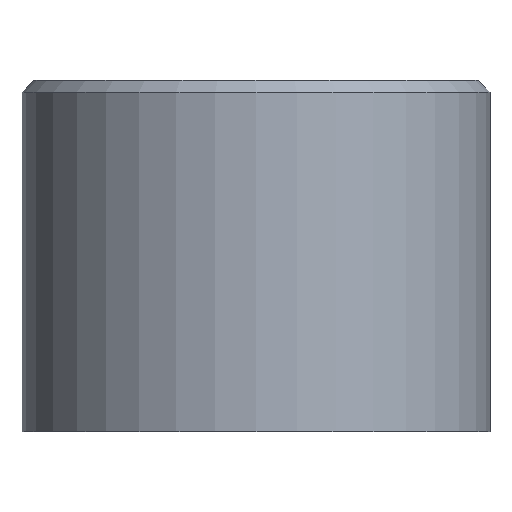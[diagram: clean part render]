
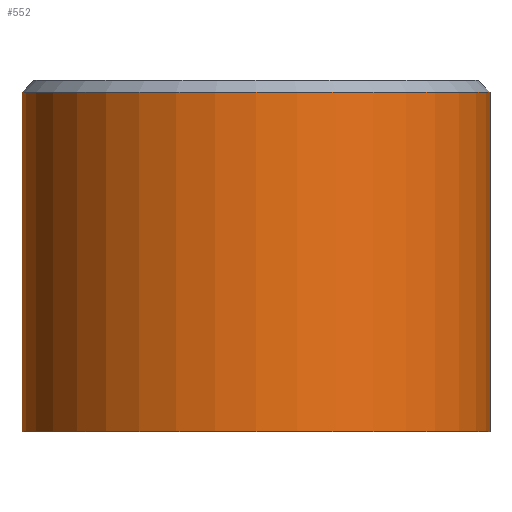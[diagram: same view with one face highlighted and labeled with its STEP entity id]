
A CAD part, front view. The second image highlights one B-rep face of the part: STEP entity #552.
In plain terms, the highlighted cylindrical face has radius 20 mm (diameter 40 mm), a full revolution.
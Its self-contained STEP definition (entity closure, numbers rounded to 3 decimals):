
#26=CIRCLE('',#596,20.);
#28=CIRCLE('',#602,20.);
#32=CYLINDRICAL_SURFACE('',#603,20.);
#61=FACE_OUTER_BOUND('',#98,.T.);
#98=EDGE_LOOP('',(#479,#480,#481,#482));
#166=LINE('',#896,#231);
#231=VECTOR('',#740,20.);
#276=VERTEX_POINT('',#884);
#278=VERTEX_POINT('',#892);
#345=EDGE_CURVE('',#276,#276,#26,.T.);
#348=EDGE_CURVE('',#278,#278,#28,.T.);
#349=EDGE_CURVE('',#278,#276,#166,.T.);
#479=ORIENTED_EDGE('',*,*,#348,.F.);
#480=ORIENTED_EDGE('',*,*,#349,.T.);
#481=ORIENTED_EDGE('',*,*,#345,.T.);
#482=ORIENTED_EDGE('',*,*,#349,.F.);
#552=ADVANCED_FACE('',(#61),#32,.T.);
#596=AXIS2_PLACEMENT_3D('',#885,#723,#724);
#602=AXIS2_PLACEMENT_3D('',#894,#736,#737);
#603=AXIS2_PLACEMENT_3D('',#895,#738,#739);
#723=DIRECTION('center_axis',(0.,0.,1.));
#724=DIRECTION('ref_axis',(1.,0.,0.));
#736=DIRECTION('center_axis',(0.,0.,1.));
#737=DIRECTION('ref_axis',(1.,0.,0.));
#738=DIRECTION('center_axis',(0.,0.,1.));
#739=DIRECTION('ref_axis',(1.,0.,0.));
#740=DIRECTION('',(0.,0.,-1.));
#884=CARTESIAN_POINT('',(-20.,0.,0.));
#885=CARTESIAN_POINT('Origin',(0.,0.,0.));
#892=CARTESIAN_POINT('',(-20.,0.,29.));
#894=CARTESIAN_POINT('Origin',(0.,0.,29.));
#895=CARTESIAN_POINT('Origin',(0.,0.,0.));
#896=CARTESIAN_POINT('',(-20.,0.,0.));
